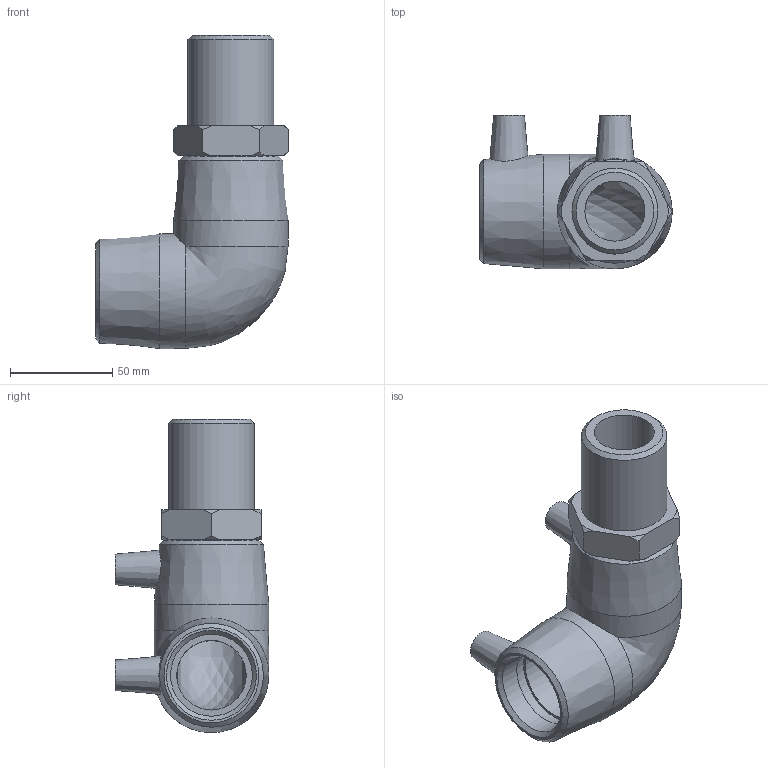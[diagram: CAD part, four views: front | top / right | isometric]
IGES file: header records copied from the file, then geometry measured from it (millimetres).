
Global section: file name: 492504040013N.ipt; native system: Autodesk Inventor 2015; preprocessor: unknown; author: KIM; date: 20200202.122342; units: millimetre
Bounding box: 94 x 75 x 153 mm (x, y, z)
Volume: 226466.6 mm3; surface area: 56706.2 mm2
Topology: 1 solids, 2 shells, 59 faces, 143 edges, 96 vertices
Faces by surface type: plane 22, cone 19, revolution 10, cylinder 7, bspline 1
Full cylindrical faces by diameter (mm): 4 x2, 40 x2, 41.91 x1, 56 x2
